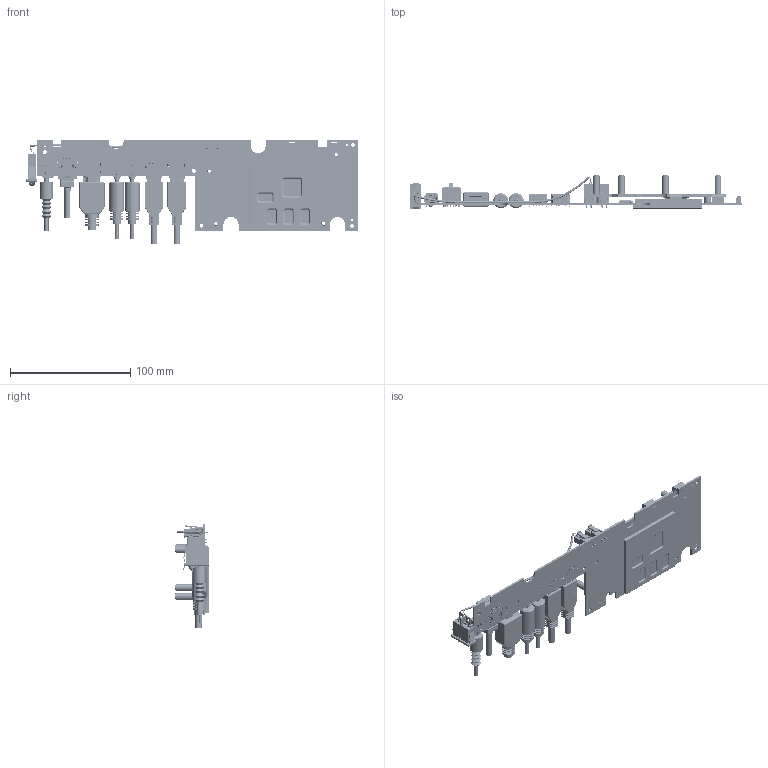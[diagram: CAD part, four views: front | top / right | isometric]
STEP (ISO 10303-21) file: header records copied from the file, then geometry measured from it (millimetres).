
FILE_DESCRIPTION((''),'2;1');
FILE_NAME('SWAN_PCB_ASSEMBLY_ASM','2020-08-11T',('G6003023'),(''),'PRO/ENGINEER BY PARAMETRIC TECHNOLOGY CORPORATION, 2013150','PRO/ENGINEER BY PARAMETRIC TECHNOLOGY CORPORATION, 2013150','');
FILE_SCHEMA(('CONFIG_CONTROL_DESIGN'));
Products named in the file (80): SWAN_PCB; SHD-6012D01-BLTN-T1-CUSTOMER; F860; MSBR-21; MSBR-20; MSBR-19; MSBR-18; MSBR-17; MSBR-16; MSBR-15; MSBR-14; MSBR-13; MSBR-12; MSBR-11; MSBR-10; MSBR-9; MSBR-8; MSBR-7; MSBR-6; MSBR-5; MSBR-4; MSBR-3; MSBR-2; MSBR-1; QJ-WFB4-IM_0325_ASM; 2SJ2296-000111; MSBR-1-011; _UB1112C-4K1-4F_3D-01; UB1112C-4K1-4F_3D-01_ASM; UEA1112C-4HK1-4F_3D; 86514-02XX_REV-1; POWER-PLUG; USB_PLUG; HDMI_CABLE_1; RJ45_PLUG; AUX_PLUG; SHIELDING_FRAME_TOP; SHIELDING_COVER_TOP; THERMAL-PAD-SOC-CUP-1-K5; SHIELDING_COVER_TOP_ASSY_ASM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
Assembly tree (99 placements, depth 4):
  SWAN_PCB_ASSEMBLY_ASM
    SWAN_PCB
    SHD-6012D01-BLTN-T1-CUSTOMER
    F860
    QJ-WFB4-IM_0325_ASM
      MSBR-21
      MSBR-20
      MSBR-19
      MSBR-18
      MSBR-17
      MSBR-16
      MSBR-15
      MSBR-14
      MSBR-13
      MSBR-12
      MSBR-11
      MSBR-10
      MSBR-9
      MSBR-8
      MSBR-7
      MSBR-6
      MSBR-5
      MSBR-4
      MSBR-3
      MSBR-2
      MSBR-1
    2SJ2296-000111  x2
    UB1112C-4K1-4F_3D-01_ASM
      MSBR-1-011
      _UB1112C-4K1-4F_3D-01
    UEA1112C-4HK1-4F_3D
    86514-02XX_REV-1  x2
    POWER-PLUG
    USB_PLUG  x2
    HDMI_CABLE_1
    RJ45_PLUG
    AUX_PLUG  x2
    SHIELDING_TOP_SOC_ASSY_ASM
      SHIELDING_FRAME_TOP
      SHIELDING_COVER_TOP_ASSY_ASM
        SHIELDING_COVER_TOP
        THERMAL-PAD-SOC-CUP-1-K5
    SHIELDING_BOTTOM_ASSY_ASM
      SHIELDING_FRAME_SOC
      SHIELDING_BOTTOM_SOC_ASSY_ASM
        SHIELDING_COVER_SOC
        THERMAL_PAD_SOC_02-K5
        THERMAL_PAD_SOC_03-K5  x4
    TBGA-14X14-153-H0_8
    UBGA-35X35-463S0
    FBGA-16X9-96CS0  x4
    STAND-NUT-411-00041-005  x4
    HEAT_SPREADER_TOP_SOC_ASSY_ASM
      HEAT_SPREADER_TOP_SOC
      STAND-OFF-M3-02  x5
      THERMAL-PAD-SOC-CUP-1-K5
    HS6-F2-01Q100-BB26_ASM_3_ASM_1__ASM
      HS6F2JZ_5_1_1
      JCP_2_2_1_1
      ZJ_2_1_1
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Bounding box: 275.78 x 28.45 x 85.96 mm (x, y, z)
Volume: 77999.1 mm3; surface area: 113843.4 mm2
Topology: 100 solids, 134 shells, 13527 faces, 37498 edges, 24310 vertices
Faces by surface type: plane 9671, cylinder 2988, bspline 405, cone 139, extrusion 126, torus 100, sphere 98
Entity records: 378375 total; most frequent: CARTESIAN_POINT 87475, ORIENTED_EDGE 62256, DIRECTION 57356, EDGE_CURVE 31128, VECTOR 24678, LINE 24554, VERTEX_POINT 20195, AXIS2_PLACEMENT_3D 16339
